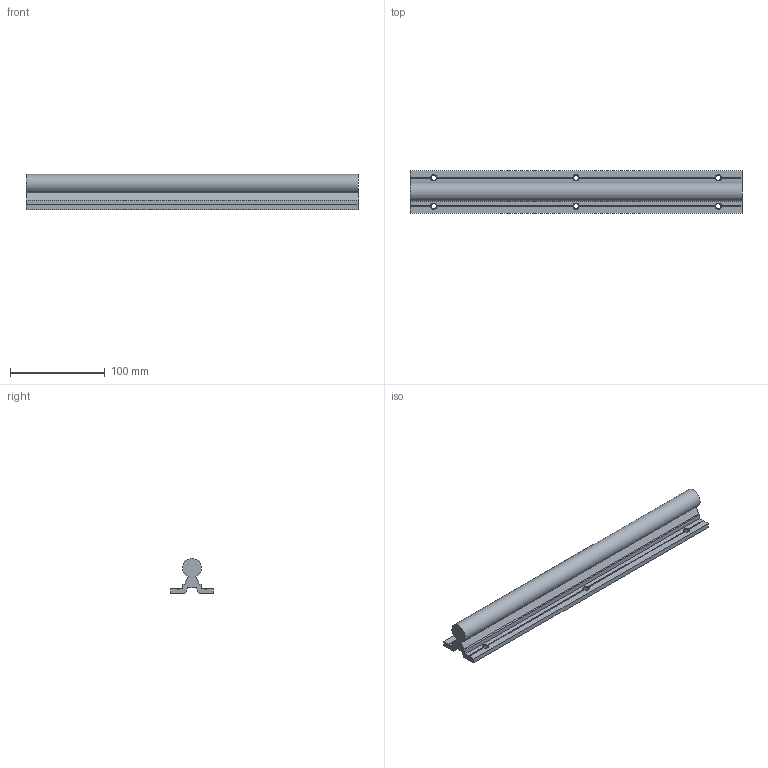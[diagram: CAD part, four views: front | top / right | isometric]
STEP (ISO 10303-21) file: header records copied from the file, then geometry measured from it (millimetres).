
FILE_DESCRIPTION(/* description */ (''),/* implementation_level */ '2;1');
FILE_NAME(/* name */ 'C:\Users\David\Desktop\stepFiles\Profilfuehrung\LFS20x350.stp',/* time_stamp */ '2018-06-24T15:21:51+02:00',/* author */ ('Buskamp'),/* organization */ (''),/* preprocessor_version */ 'ST-DEVELOPER v17',/* originating_system */ 'Autodesk Inventor 2019',/* authorisation */ '');
FILE_SCHEMA (('AUTOMOTIVE_DESIGN { 1 0 10303 214 3 1 1 }'));
Length unit declared in the file: millimetre
Products named in the file (1): Linearführung D20xvariabel
Bounding box: 350 x 45 x 37 mm (x, y, z)
Volume: 225975.7 mm3; surface area: 63117.5 mm2
Topology: 1 solids, 1 shells, 62 faces, 180 edges, 114 vertices
Faces by surface type: plane 43, cone 12, cylinder 7
Full cylindrical faces by diameter (mm): 5.5 x6
Entity records: 2075 total; most frequent: CARTESIAN_POINT 405, ORIENTED_EDGE 360, DIRECTION 338, EDGE_CURVE 180, AXIS2_PLACEMENT_3D 119, VERTEX_POINT 114, LINE 100, VECTOR 100
